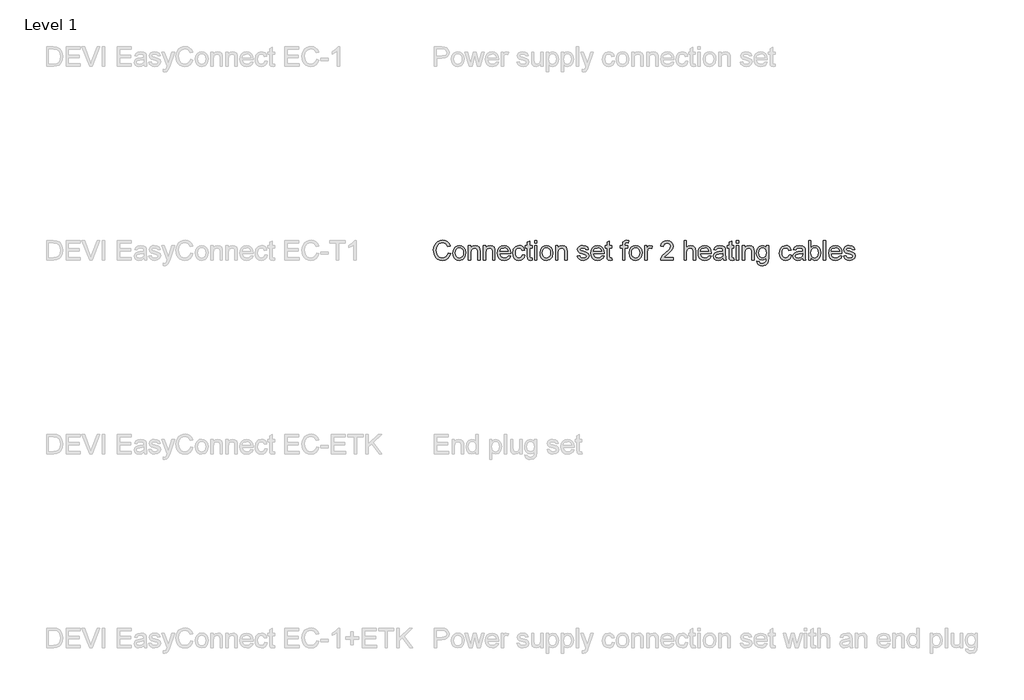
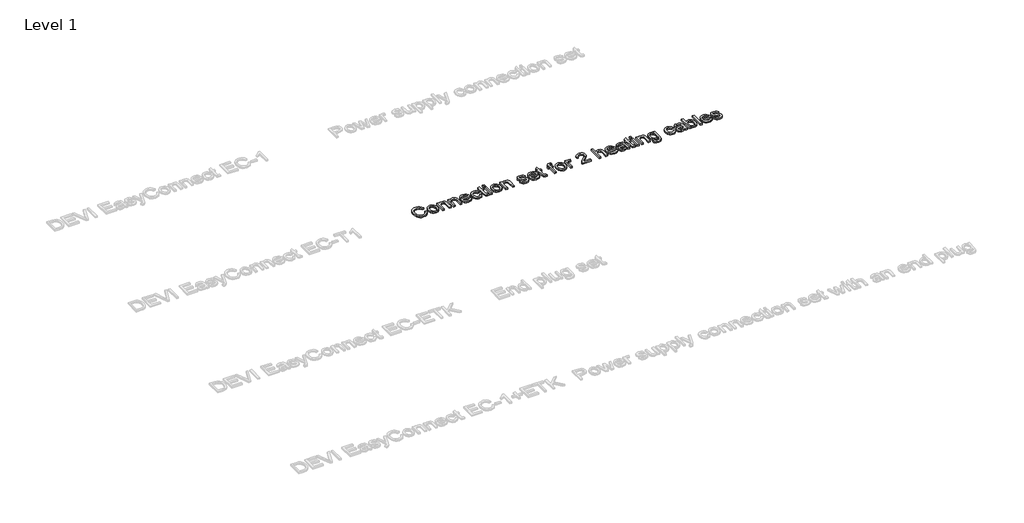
# One storey, part 10 of 11: 1 proxy.
"""IFC4 building model written with IfcOpenShell, lengths in millimetres."""

import ifcopenshell
import ifcopenshell.guid

model = None  # the IFC model being written
_history = None  # IfcOwnerHistory: only IFC2X3 demands one
_inside = {}  # id of a spatial element -> (the spatial element, [elements in it])
_under = {}  # id of a project, library or spatial element -> (it, [spatial elements below it])
_declared = {}  # id of a project -> (the project, [libraries it declares])
_typed = {}  # id of a type object -> (the type object, [elements of that type])
_made_of = {}  # id of a material, layer set ... -> (it, [elements and type objects made of it])


def new_model(schema):
    """Start an empty IFC model of exactly this schema.

    Asked for "IFC4X3", IfcOpenShell would pick the latest addendum, in which some entities
    have other attributes; the version numbers below select the first issue.
    IFC2X3 requires an IfcOwnerHistory on every rooted entity: one is made here for all.
    """
    global model, _history
    if schema == "IFC4X3":
        model = ifcopenshell.file(schema_version=(4, 3, 0, 0))
    else:
        model = ifcopenshell.file(schema=schema)
    _inside.clear()
    _under.clear()
    _declared.clear()
    _typed.clear()
    _made_of.clear()
    _history = None
    if model.schema == "IFC2X3":
        org = make("IfcOrganization", Name="unknown")
        user = make(
            "IfcPersonAndOrganization",
            ThePerson=make("IfcPerson", FamilyName="unknown"),
            TheOrganization=org,
        )
        app = make(
            "IfcApplication",
            ApplicationDeveloper=org,
            Version="unknown",
            ApplicationFullName="unknown",
            ApplicationIdentifier="unknown",
        )
        _history = make(
            "IfcOwnerHistory",
            OwningUser=user,
            OwningApplication=app,
            ChangeAction="ADDED",
            CreationDate=0,
        )
    return model


def make(cls, **values):
    """One entity of the class cls with the attributes given. An attribute that is None is left unset."""
    return model.create_entity(
        cls, **{name: value for name, value in values.items() if value is not None}
    )


def rooted(cls, **values):
    """An entity with a GlobalId (a new one), such as an element, a storey or a relation."""
    return make(cls, GlobalId=ifcopenshell.guid.new(), OwnerHistory=_history, **values)


def si_unit(unit_type, name, prefix=None):
    """IfcSIUnit, for example si_unit("LENGTHUNIT", "METRE", prefix="MILLI")."""
    return make("IfcSIUnit", UnitType=unit_type, Prefix=prefix, Name=name)


def assignment(units):
    """IfcUnitAssignment: the units of a project."""
    return None if units is None else make("IfcUnitAssignment", Units=units)


def point(xyz):
    """IfcCartesianPoint."""
    return None if xyz is None else make("IfcCartesianPoint", Coordinates=xyz)


def direction(xyz):
    """IfcDirection."""
    return None if xyz is None else make("IfcDirection", DirectionRatios=xyz)


def frame(location, z_axis=None, x_axis=None):
    """IfcAxis2Placement3D, a coordinate frame: its origin and axes. An axis left out is left unset."""
    return make(
        "IfcAxis2Placement3D",
        Location=point(location),
        Axis=direction(z_axis),
        RefDirection=direction(x_axis),
    )


def origin():
    """The frame at (0, 0, 0) with its axes left unset."""
    return frame((0.0, 0.0, 0.0))


def origin_with_axes():
    """The frame at (0, 0, 0) with the z axis (0, 0, 1) and the x axis (1, 0, 0) written out."""
    return frame((0.0, 0.0, 0.0), z_axis=(0.0, 0.0, 1.0), x_axis=(1.0, 0.0, 0.0))


def place(relative_to, where):
    """IfcLocalPlacement: puts the frame where relative to a parent placement (None: the world)."""
    return make(
        "IfcLocalPlacement", PlacementRelTo=relative_to, RelativePlacement=where
    )


def context(
    kind, dimensions, precision=None, world=None, true_north=None, identifier=None
):
    """IfcGeometricRepresentationContext, for example the 3D "Model" context."""
    return make(
        "IfcGeometricRepresentationContext",
        ContextIdentifier=identifier,
        ContextType=kind,
        CoordinateSpaceDimension=dimensions,
        Precision=precision,
        WorldCoordinateSystem=world,
        TrueNorth=true_north,
    )


def project(units=None, contexts=None):
    """IfcProject with its units and contexts."""
    return rooted(
        "IfcProject",
        Name="project",
        RepresentationContexts=contexts,
        UnitsInContext=assignment(units),
    )


def spatial(cls, under=None, at=None, **own):
    """A site, building, storey or space (cls), placed at a placement, below another one or the project."""
    s = rooted(cls, ObjectPlacement=at, **own)
    if under is not None:
        _under.setdefault(under.id(), (under, []))[1].append(s)
    return s


def polyline(points):
    """IfcPolyline through the points."""
    return make("IfcPolyline", Points=[point(p) for p in points])


def outline(outer, holes=None, kind="AREA"):
    """IfcArbitraryClosedProfileDef: a profile drawn as a closed curve; with holes, ...WithVoids."""
    if holes is None:
        return make("IfcArbitraryClosedProfileDef", ProfileType=kind, OuterCurve=outer)
    return make(
        "IfcArbitraryProfileDefWithVoids",
        ProfileType=kind,
        OuterCurve=outer,
        InnerCurves=holes,
    )


def extrude(swept, where, along, depth):
    """IfcExtrudedAreaSolid: the profile swept, set in the frame where, extruded along a direction by depth."""
    return make(
        "IfcExtrudedAreaSolid",
        SweptArea=swept,
        Position=where,
        ExtrudedDirection=direction(along),
        Depth=depth,
    )


def shape(context_of_items, identifier, shape_type, items):
    """IfcShapeRepresentation: the items that make up one representation, for example the "Body"."""
    return make(
        "IfcShapeRepresentation",
        ContextOfItems=context_of_items,
        RepresentationIdentifier=identifier,
        RepresentationType=shape_type,
        Items=items,
    )


def made_of(thing, what):
    """Note that an element or type object is made of a material, layer set ...; save() writes the relation."""
    if what is not None:
        _made_of.setdefault(what.id(), (what, []))[1].append(thing)
    return thing


def element(
    cls,
    number,
    at=None,
    inside=None,
    cuts=None,
    type_object=None,
    material=None,
    context=None,
    identifier="Body",
    shape_type=None,
    held_by="IfcProductDefinitionShape",
    body=None,
    shapes=None,
    **own,
):
    """One element of the class cls, such as IfcWall. Its Tag is "e" and its number.

    at: its placement. inside: the storey or other place that contains it. cuts: it is an
    opening in that element (IfcRelVoidsElement). A single representation is given by context,
    identifier, shape_type and body (its items); several are given by shapes. held_by: the class
    of the entity that holds the representations. save() writes the other relations.
    """
    e = rooted(cls, Tag="e%d" % number, ObjectPlacement=at, **own)
    if body is not None:
        shapes = [shape(context, identifier, shape_type, body)]
    if shapes is not None:
        e.Representation = make(held_by, Representations=shapes)
    if inside is not None:
        _inside.setdefault(inside.id(), (inside, []))[1].append(e)
    if cuts is not None:
        rooted(
            "IfcRelVoidsElement", RelatingBuildingElement=cuts, RelatedOpeningElement=e
        )
    if type_object is not None:
        _typed.setdefault(type_object.id(), (type_object, []))[1].append(e)
    return made_of(e, material)


def aggregate(whole, parts):
    """IfcRelAggregates: a whole, such as a stair, and the parts it consists of."""
    return rooted("IfcRelAggregates", RelatingObject=whole, RelatedObjects=parts)


def save(model, path):
    """Write the relations noted so far, then the file.

    IfcRelAggregates (storeys below a building ...), IfcRelContainedInSpatialStructure (elements
    in a storey), IfcRelDefinesByType, IfcRelAssociatesMaterial and IfcRelDeclares: one each for
    every whole, place, type object, material and project.
    """
    for whole, parts in _under.values():
        aggregate(whole, parts)
    for where, things in _inside.values():
        rooted(
            "IfcRelContainedInSpatialStructure",
            RelatedElements=things,
            RelatingStructure=where,
        )
    for kind, things in _typed.values():
        rooted("IfcRelDefinesByType", RelatedObjects=things, RelatingType=kind)
    for what, things in _made_of.values():
        rooted("IfcRelAssociatesMaterial", RelatedObjects=things, RelatingMaterial=what)
    for by, libraries in _declared.values():
        rooted("IfcRelDeclares", RelatingContext=by, RelatedDefinitions=libraries)
    model.write(path)


model = new_model("IFC4")

# Units and contexts
model_context = context("Model", 3, world=origin())
ifc_project = project(units=[si_unit("LENGTHUNIT", "METRE", prefix="MILLI")], contexts=[model_context])

# Site, building, storey
site = spatial("IfcSite", under=ifc_project)
building = spatial("IfcBuilding", under=site)
storey = spatial("IfcBuildingStorey", under=building, Name="Level 1", Elevation=0.0)

# Proxy
placement = place(None, origin())
element("IfcBuildingElementProxy", 1, Name="100mm Arial", ObjectType="100mm Arial", at=placement, inside=storey, context=model_context, shape_type="SweptSolid", body=[
    extrude(outline(polyline([(4615.5878184, 5552.4432286), (4628.1448572, 5549.2058671), (4622.3507158, 5534.5733607), (4613.2578991, 5523.883323), (4601.313997, 5517.3442206), (4586.9665992, 5515.1645198), (4572.4015379, 5516.8138574), (4560.8347148, 5521.7618702), (4551.9687587, 5529.83688), (4545.5062983, 5540.8672085), (4540.2455858, 5567.7225941), (4541.7324422, 5582.3704289), (4546.1930114, 5595.0194382), (4553.3943015, 5605.2680174), (4563.1033205, 5612.7145622), (4574.6180269, 5617.2487077), (4587.2363793, 5618.7600896), (4601.004363, 5616.8041837), (4612.3872451, 5610.9364658), (4621.0294063, 5601.5186868), (4626.5752274, 5588.9125971), (4614.0181886, 5585.9204902), (4603.7174927, 5601.3592712), (4586.74587, 5606.2030508), (4567.1009715, 5600.8319737), (4556.0031979, 5586.4109995), (4552.8026246, 5567.7471196), (4556.5918091, 5546.1156583), (4568.3885584, 5532.295558), (4585.7158004, 5527.7215585), (4596.1973716, 5529.2789256), (4604.9315033, 5533.951027), (4611.5257881, 5541.6888116), (4615.5878184, 5552.4432286)])), origin_with_axes(), (0.0, 0.0, 1.0), 10.0),
    extrude(outline(polyline([(4640.701896, 5553.620451), (4643.4180914, 5571.4075455), (4651.5666776, 5583.9094019), (4661.6343815, 5590.0346371), (4673.6886482, 5592.0763822), (4686.8802834, 5589.5901131), (4697.4170369, 5582.1313056), (4704.3240214, 5570.2885711), (4706.6263495, 5554.6505206), (4702.5551221, 5532.3078207), (4690.6970591, 5519.6649428), (4673.6886482, 5515.1645198), (4660.3375975, 5517.6415919), (4649.8131067, 5525.0728082), (4642.9796987, 5537.1638631), (4640.701896, 5553.620451)]), holes=[polyline([(4653.2589347, 5553.6449765), (4654.7120686, 5542.2804885), (4659.0714703, 5534.1840189), (4665.6320325, 5529.3371736), (4673.6886482, 5527.7215585), (4681.7084757, 5529.3463707), (4688.2567752, 5534.2208071), (4692.6161769, 5542.4245756), (4694.0693107, 5554.0373839), (4692.6069798, 5565.0707781), (4688.219987, 5573.0568831), (4681.6624904, 5577.9037284), (4673.6886482, 5579.5193435), (4665.6320325, 5577.9098597), (4659.0714703, 5573.0814085), (4654.7120686, 5565.0033331), (4653.2589347, 5553.6449765)])]), origin_with_axes(), (0.0, 0.0, 1.0), 10.0),
    extrude(outline(polyline([(4720.7530181, 5516.7341496), (4720.7530181, 5590.5067524), (4733.3100569, 5590.5067524), (4733.3100569, 5580.2060565), (4742.911777, 5589.1088008), (4756.0206387, 5592.0763822), (4767.8787017, 5589.6851493), (4775.9721056, 5583.4066299), (4779.7367647, 5574.1727918), (4780.3989523, 5562.0326859), (4780.3989523, 5516.7341496), (4767.8419135, 5516.7341496), (4767.8419135, 5560.3404288), (4766.394911, 5571.450465), (4761.2813513, 5577.3243142), (4752.6606498, 5579.5193435), (4739.0367533, 5574.5897247), (4734.741731, 5567.4466826), (4733.3100569, 5555.8767939), (4733.3100569, 5516.7341496), (4720.7530181, 5516.7341496)])), origin_with_axes(), (0.0, 0.0, 1.0), 10.0),
    extrude(outline(polyline([(4797.6648806, 5516.7341496), (4797.6648806, 5590.5067524), (4810.2219193, 5590.5067524), (4810.2219193, 5580.2060565), (4819.8236394, 5589.1088008), (4832.9325012, 5592.0763822), (4844.7905642, 5589.6851493), (4852.8839681, 5583.4066299), (4856.6486271, 5574.1727918), (4857.3108147, 5562.0326859), (4857.3108147, 5516.7341496), (4844.753776, 5516.7341496), (4844.753776, 5560.3404288), (4843.3067734, 5571.450465), (4838.1932137, 5577.3243142), (4829.5725123, 5579.5193435), (4815.9486157, 5574.5897247), (4811.6535934, 5567.4466826), (4810.2219193, 5555.8767939), (4810.2219193, 5516.7341496), (4797.6648806, 5516.7341496)])), origin_with_axes(), (0.0, 0.0, 1.0), 10.0),
    extrude(outline(polyline([(4926.2273752, 5538.7089675), (4938.5391593, 5537.1393376), (4934.1031155, 5527.86258), (4927.0244528, 5520.9280044), (4917.4625866, 5516.6053909), (4905.5769325, 5515.1645198), (4890.8432586, 5517.6507889), (4879.5063618, 5525.1095964), (4872.2774806, 5537.0565642), (4869.8678535, 5553.0073143), (4872.302006, 5569.4945591), (4879.6044636, 5581.8247373), (4890.7880763, 5589.513471), (4904.865694, 5592.0763822), (4918.5049189, 5589.5196024), (4929.403423, 5581.8492628), (4936.5495308, 5569.54361), (4938.9315667, 5553.0808907), (4938.8579903, 5549.6963764), (4882.4248923, 5549.6963764), (4884.5984617, 5540.2969914), (4889.6476421, 5533.3869413), (4896.9347713, 5529.1379042), (4905.8221872, 5527.7215585), (4918.1339713, 5530.3457834), (4926.2273752, 5538.7089675)]), holes=[polyline([(4882.4248923, 5562.2534151), (4926.374528, 5562.2534151), (4921.3468074, 5573.6332315), (4914.0259557, 5578.0478155), (4904.816643, 5579.5193435), (4889.3533365, 5574.8227166), (4884.4880971, 5569.3320779), (4882.4248923, 5562.2534151)])]), origin_with_axes(), (0.0, 0.0, 1.0), 10.0),
    extrude(outline(polyline([(4998.5775009, 5543.417857), (5011.1345396, 5541.8482271), (5007.6335293, 5530.6799429), (5001.054573, 5522.2401168), (4992.0169386, 5516.933419), (4981.1398943, 5515.1645198), (4967.7827122, 5517.6323948), (4957.3379292, 5525.03602), (4950.5964917, 5537.0504328), (4948.3493458, 5553.3506709), (4952.1875813, 5574.20958), (4963.8862287, 5587.6127473), (4980.968216, 5592.0763822), (4991.5785459, 5590.5435406), (5000.0612916, 5585.9450156), (5006.1466729, 5578.5260621), (5009.5649098, 5568.5319345), (4997.007871, 5566.9623047), (4991.1830728, 5576.367821), (4981.0663179, 5579.5193435), (4972.9514542, 5577.9681077), (4966.5104536, 5573.3144005), (4962.3074018, 5565.3068357), (4960.9063846, 5553.6940274), (4962.276745, 5541.9248692), (4966.3878263, 5533.8897133), (4972.7123309, 5529.2635972), (4980.7229614, 5527.7215585), (4992.5564989, 5531.5720567), (4998.5775009, 5543.417857)])), origin_with_axes(), (0.0, 0.0, 1.0), 10.0),
    extrude(outline(polyline([(5048.805656, 5527.2065237), (5050.3752858, 5516.3662676), (5040.9820322, 5515.1645198), (5030.4606071, 5517.2491844), (5025.2121573, 5522.7183634), (5023.6915784, 5536.9676593), (5023.6915784, 5577.9497136), (5014.2737993, 5577.9497136), (5014.2737993, 5590.5067524), (5023.6915784, 5590.5067524), (5023.6915784, 5608.4348683), (5036.2486172, 5615.8170336), (5036.2486172, 5590.5067524), (5048.805656, 5590.5067524), (5048.805656, 5577.9497136), (5036.2486172, 5577.9497136), (5036.2486172, 5537.3355413), (5036.9108048, 5530.8608182), (5039.0567831, 5528.5676871), (5043.336477, 5527.7215585), (5048.805656, 5527.2065237)])), origin_with_axes(), (0.0, 0.0, 1.0), 10.0),
    extrude(outline(polyline([(5061.3626947, 5604.633421), (5061.3626947, 5617.1904598), (5073.9197335, 5617.1904598), (5073.9197335, 5604.633421), (5061.3626947, 5604.633421)])), origin_with_axes(), (0.0, 0.0, 1.0), 10.0),
    extrude(outline(polyline([(5061.3626947, 5516.7341496), (5061.3626947, 5590.5067524), (5073.9197335, 5590.5067524), (5073.9197335, 5516.7341496), (5061.3626947, 5516.7341496)])), origin_with_axes(), (0.0, 0.0, 1.0), 10.0),
    extrude(outline(polyline([(5089.6160319, 5553.620451), (5092.3322273, 5571.4075455), (5100.4808135, 5583.9094019), (5110.5485175, 5590.0346371), (5122.6027842, 5592.0763822), (5135.7944194, 5589.5901131), (5146.3311729, 5582.1313056), (5153.2381573, 5570.2885711), (5155.5404855, 5554.6505206), (5151.4692581, 5532.3078207), (5139.6111951, 5519.6649428), (5122.6027842, 5515.1645198), (5109.2517334, 5517.6415919), (5098.7272427, 5525.0728082), (5091.8938346, 5537.1638631), (5089.6160319, 5553.620451)]), holes=[polyline([(5102.1730707, 5553.6449765), (5103.6262046, 5542.2804885), (5107.9856062, 5534.1840189), (5114.5461685, 5529.3371736), (5122.6027842, 5527.7215585), (5130.6226117, 5529.3463707), (5137.1709112, 5534.2208071), (5141.5303128, 5542.4245756), (5142.9834467, 5554.0373839), (5141.5211158, 5565.0707781), (5137.134123, 5573.0568831), (5130.5766264, 5577.9037284), (5122.6027842, 5579.5193435), (5114.5461685, 5577.9098597), (5107.9856062, 5573.0814085), (5103.6262046, 5565.0033331), (5102.1730707, 5553.6449765)])]), origin_with_axes(), (0.0, 0.0, 1.0), 10.0),
    extrude(outline(polyline([(5169.6671541, 5516.7341496), (5169.6671541, 5590.5067524), (5182.2241929, 5590.5067524), (5182.2241929, 5580.2060565), (5191.8259129, 5589.1088008), (5204.9347747, 5592.0763822), (5216.7928377, 5589.6851493), (5224.8862416, 5583.4066299), (5228.6509007, 5574.1727918), (5229.3130883, 5562.0326859), (5229.3130883, 5516.7341496), (5216.7560495, 5516.7341496), (5216.7560495, 5560.3404288), (5215.309047, 5571.450465), (5210.1954872, 5577.3243142), (5201.5747858, 5579.5193435), (5187.9508893, 5574.5897247), (5183.655867, 5567.4466826), (5182.2241929, 5555.8767939), (5182.2241929, 5516.7341496), (5169.6671541, 5516.7341496)])), origin_with_axes(), (0.0, 0.0, 1.0), 10.0),
    extrude(outline(polyline([(5281.1108732, 5538.7089675), (5293.6679119, 5540.2785973), (5299.4804475, 5530.9589201), (5312.7977757, 5527.7215585), (5325.6000691, 5530.68914), (5329.7693984, 5537.6543724), (5325.5755437, 5543.2952297), (5312.6506229, 5546.8759477), (5293.7414883, 5553.0195771), (5285.4886689, 5560.193276), (5282.680503, 5570.3222936), (5284.9368459, 5579.678759), (5291.092738, 5586.8279324), (5299.0757773, 5590.5435406), (5309.8792452, 5592.0763822), (5325.1586107, 5589.6115729), (5334.8706954, 5582.940646), (5339.1871775, 5571.6711942), (5326.6301387, 5570.1015644), (5321.9089864, 5577.0300086), (5310.8602638, 5579.5193435), (5298.8427853, 5577.1403732), (5295.2375418, 5571.5976178), (5296.7335952, 5567.9433233), (5301.4179593, 5565.1719456), (5312.23369, 5562.4986698), (5330.6645779, 5556.5880324), (5339.2239657, 5549.8925801), (5342.3264372, 5538.9787476), (5338.6844054, 5526.9612691), (5328.1752431, 5518.2424658), (5312.6260974, 5515.1645198), (5299.9648254, 5516.6483105), (5290.724856, 5521.0996826), (5284.5567012, 5528.4695853), (5281.1108732, 5538.7089675)])), origin_with_axes(), (0.0, 0.0, 1.0), 10.0),
    extrude(outline(polyline([(5408.1037379, 5538.7089675), (5420.415522, 5537.1393376), (5415.9794783, 5527.86258), (5408.9008156, 5520.9280044), (5399.3389494, 5516.6053909), (5387.4532952, 5515.1645198), (5372.7196213, 5517.6507889), (5361.3827245, 5525.1095964), (5354.1538433, 5537.0565642), (5351.7442162, 5553.0073143), (5354.1783688, 5569.4945591), (5361.4808264, 5581.8247373), (5372.664439, 5589.513471), (5386.7420567, 5592.0763822), (5400.3812817, 5589.5196024), (5411.2797858, 5581.8492628), (5418.4258936, 5569.54361), (5420.8079295, 5553.0808907), (5420.7343531, 5549.6963764), (5364.301255, 5549.6963764), (5366.4748245, 5540.2969914), (5371.5240049, 5533.3869413), (5378.811134, 5529.1379042), (5387.6985499, 5527.7215585), (5400.010334, 5530.3457834), (5408.1037379, 5538.7089675)]), holes=[polyline([(5364.301255, 5562.2534151), (5408.2508907, 5562.2534151), (5403.2231701, 5573.6332315), (5395.9023184, 5578.0478155), (5386.6930058, 5579.5193435), (5371.2296993, 5574.8227166), (5366.3644599, 5569.3320779), (5364.301255, 5562.2534151)])]), origin_with_axes(), (0.0, 0.0, 1.0), 10.0),
    extrude(outline(polyline([(5460.0486756, 5527.2065237), (5461.6183055, 5516.3662676), (5452.2250519, 5515.1645198), (5441.7036268, 5517.2491844), (5436.455177, 5522.7183634), (5434.9345981, 5536.9676593), (5434.9345981, 5577.9497136), (5425.516819, 5577.9497136), (5425.516819, 5590.5067524), (5434.9345981, 5590.5067524), (5434.9345981, 5608.4348683), (5447.4916369, 5615.8170336), (5447.4916369, 5590.5067524), (5460.0486756, 5590.5067524), (5460.0486756, 5577.9497136), (5447.4916369, 5577.9497136), (5447.4916369, 5537.3355413), (5448.1538244, 5530.8608182), (5450.2998028, 5528.5676871), (5454.5794966, 5527.7215585), (5460.0486756, 5527.2065237)])), origin_with_axes(), (0.0, 0.0, 1.0), 10.0),
    extrude(outline(polyline([(5514.9857202, 5516.7341496), (5514.9857202, 5577.9497136), (5503.9983113, 5577.9497136), (5503.9983113, 5590.5067524), (5514.9857202, 5590.5067524), (5514.9857202, 5597.9379687), (5516.3100954, 5608.4103428), (5522.7357676, 5615.89061), (5535.3909082, 5618.7600896), (5546.844301, 5617.3866635), (5545.004891, 5605.6144396), (5537.7698785, 5606.2030508), (5529.8604156, 5604.1183862), (5527.542759, 5596.3438134), (5527.542759, 5590.5067524), (5541.6694276, 5590.5067524), (5541.6694276, 5577.9497136), (5527.542759, 5577.9497136), (5527.542759, 5516.7341496), (5514.9857202, 5516.7341496)])), origin_with_axes(), (0.0, 0.0, 1.0), 10.0),
    extrude(outline(polyline([(5549.5175769, 5553.620451), (5552.2337722, 5571.4075455), (5560.3823584, 5583.9094019), (5570.4500624, 5590.0346371), (5582.5043291, 5592.0763822), (5595.6959643, 5589.5901131), (5606.2327178, 5582.1313056), (5613.1397022, 5570.2885711), (5615.4420304, 5554.6505206), (5611.370803, 5532.3078207), (5599.51274, 5519.6649428), (5582.5043291, 5515.1645198), (5569.1532783, 5517.6415919), (5558.6287876, 5525.0728082), (5551.7953795, 5537.1638631), (5549.5175769, 5553.620451)]), holes=[polyline([(5562.0746156, 5553.6449765), (5563.5277495, 5542.2804885), (5567.8871511, 5534.1840189), (5574.4477134, 5529.3371736), (5582.5043291, 5527.7215585), (5590.5241566, 5529.3463707), (5597.0724561, 5534.2208071), (5601.4318577, 5542.4245756), (5602.8849916, 5554.0373839), (5601.4226607, 5565.0707781), (5597.0356679, 5573.0568831), (5590.4781713, 5577.9037284), (5582.5043291, 5579.5193435), (5574.4477134, 5577.9098597), (5567.8871511, 5573.0814085), (5563.5277495, 5565.0033331), (5562.0746156, 5553.6449765)])]), origin_with_axes(), (0.0, 0.0, 1.0), 10.0),
    extrude(outline(polyline([(5629.568699, 5516.7341496), (5629.568699, 5590.5067524), (5640.5561079, 5590.5067524), (5640.5561079, 5579.5929199), (5648.3552062, 5589.6483611), (5656.2033555, 5592.0763822), (5668.8094452, 5588.2013585), (5664.6155904, 5576.9441695), (5655.7864225, 5579.5193435), (5648.6863, 5577.0422714), (5644.1613515, 5570.1751408), (5642.1257378, 5555.5089119), (5642.1257378, 5516.7341496), (5629.568699, 5516.7341496)])), origin_with_axes(), (0.0, 0.0, 1.0), 10.0),
    extrude(outline(polyline([(5777.1139045, 5529.2911884), (5777.1139045, 5516.7341496), (5711.189451, 5516.7341496), (5712.5383516, 5525.3916392), (5720.1657717, 5538.7212302), (5735.8865956, 5553.2770945), (5757.5671079, 5574.1973173), (5762.9872359, 5588.4220877), (5757.8736762, 5599.9367942), (5744.5195598, 5604.633421), (5730.6013576, 5600.0471588), (5725.3161196, 5587.3674927), (5712.7590808, 5588.9371225), (5715.8033044, 5601.0833597), (5722.3853264, 5609.9554472), (5732.1617904, 5615.3817066), (5744.7893399, 5617.1904598), (5757.5088599, 5615.1793715), (5767.2669298, 5609.1461068), (5773.4749385, 5600.1329979), (5775.5442747, 5589.1823772), (5773.3124573, 5577.2752633), (5765.8935037, 5564.9634792), (5747.9040741, 5547.7588645), (5733.4585744, 5535.6800724), (5727.7931917, 5529.2911884), (5777.1139045, 5529.2911884)])), origin_with_axes(), (0.0, 0.0, 1.0), 10.0),
    extrude(outline(polyline([(5832.0509491, 5516.7341496), (5832.0509491, 5617.1904598), (5844.6079879, 5617.1904598), (5844.6079879, 5580.2551074), (5854.3997804, 5589.1210635), (5866.4601784, 5592.0763822), (5880.5623216, 5588.8512834), (5889.1217093, 5579.9362764), (5891.6968833, 5563.4306375), (5891.6968833, 5516.7341496), (5879.1398445, 5516.7341496), (5879.1398445, 5562.1307878), (5875.1421935, 5575.3745396), (5863.8114281, 5579.5193435), (5853.5229949, 5576.7234403), (5846.6558644, 5569.1450712), (5844.6079879, 5555.9258448), (5844.6079879, 5516.7341496), (5832.0509491, 5516.7341496)])), origin_with_axes(), (0.0, 0.0, 1.0), 10.0),
    extrude(outline(polyline([(5960.6134437, 5538.7089675), (5972.9252278, 5537.1393376), (5968.4891841, 5527.86258), (5961.4105214, 5520.9280044), (5951.8486552, 5516.6053909), (5939.9630011, 5515.1645198), (5925.2293272, 5517.6507889), (5913.8924303, 5525.1095964), (5906.6635491, 5537.0565642), (5904.2539221, 5553.0073143), (5906.6880746, 5569.4945591), (5913.9905322, 5581.8247373), (5925.1741449, 5589.513471), (5939.2517625, 5592.0763822), (5952.8909875, 5589.5196024), (5963.7894916, 5581.8492628), (5970.9355994, 5569.54361), (5973.3176353, 5553.0808907), (5973.2440589, 5549.6963764), (5916.8109608, 5549.6963764), (5918.9845303, 5540.2969914), (5924.0337107, 5533.3869413), (5931.3208399, 5529.1379042), (5940.2082557, 5527.7215585), (5952.5200398, 5530.3457834), (5960.6134437, 5538.7089675)]), holes=[polyline([(5916.8109608, 5562.2534151), (5960.7605965, 5562.2534151), (5955.7328759, 5573.6332315), (5948.4120242, 5578.0478155), (5939.2027116, 5579.5193435), (5923.7394051, 5574.8227166), (5918.8741657, 5569.3320779), (5916.8109608, 5562.2534151)])]), origin_with_axes(), (0.0, 0.0, 1.0), 10.0),
    extrude(outline(polyline([(6032.9635694, 5526.1519287), (6020.7866754, 5517.6415919), (6007.3344571, 5515.1645198), (5996.8406232, 5516.6544418), (5989.0997729, 5521.1242081), (5984.326504, 5527.9116309), (5982.7354144, 5536.3545227), (5985.1389101, 5546.2873366), (5991.4542177, 5553.4978237), (6000.2465973, 5557.618102), (6011.1113789, 5559.5065629), (6032.889993, 5563.823045), (6032.9635694, 5566.6189482), (6029.5054787, 5575.8895744), (6015.6240647, 5579.5193435), (6002.9198732, 5577.103585), (5996.862083, 5568.5319345), (5984.3050442, 5570.1015644), (5989.737435, 5582.3642975), (6000.675793, 5589.5502592), (6017.2427455, 5592.0763822), (6032.4607974, 5589.8445648), (6041.0569733, 5584.2404957), (6044.9074716, 5575.7178962), (6045.5206082, 5564.7304872), (6045.5206082, 5549.1077652), (6046.1582703, 5527.2923629), (6048.6598679, 5516.7341496), (6036.1028291, 5516.7341496), (6032.9635694, 5526.1519287)]), holes=[polyline([(6032.9635694, 5551.2660062), (6012.7055342, 5547.415508), (6001.9020663, 5545.3798943), (5997.0092358, 5542.0689563), (5995.2924531, 5537.2374395), (5999.0325868, 5530.4438853), (6010.0077329, 5527.7215585), (6022.7119245, 5530.7259282), (6030.9034303, 5537.9977289), (6032.889993, 5547.7098136), (6032.9635694, 5551.2660062)])]), origin_with_axes(), (0.0, 0.0, 1.0), 10.0),
    extrude(outline(polyline([(6089.4702439, 5527.2065237), (6091.0398738, 5516.3662676), (6081.6466201, 5515.1645198), (6071.1251951, 5517.2491844), (6065.8767453, 5522.7183634), (6064.3561664, 5536.9676593), (6064.3561664, 5577.9497136), (6054.9383873, 5577.9497136), (6054.9383873, 5590.5067524), (6064.3561664, 5590.5067524), (6064.3561664, 5608.4348683), (6076.9132051, 5615.8170336), (6076.9132051, 5590.5067524), (6089.4702439, 5590.5067524), (6089.4702439, 5577.9497136), (6076.9132051, 5577.9497136), (6076.9132051, 5537.3355413), (6077.5753927, 5530.8608182), (6079.721371, 5528.5676871), (6084.0010649, 5527.7215585), (6089.4702439, 5527.2065237)])), origin_with_axes(), (0.0, 0.0, 1.0), 10.0),
    extrude(outline(polyline([(6102.0272827, 5604.633421), (6102.0272827, 5617.1904598), (6114.5843214, 5617.1904598), (6114.5843214, 5604.633421), (6102.0272827, 5604.633421)])), origin_with_axes(), (0.0, 0.0, 1.0), 10.0),
    extrude(outline(polyline([(6102.0272827, 5516.7341496), (6102.0272827, 5590.5067524), (6114.5843214, 5590.5067524), (6114.5843214, 5516.7341496), (6102.0272827, 5516.7341496)])), origin_with_axes(), (0.0, 0.0, 1.0), 10.0),
    extrude(outline(polyline([(6133.4198796, 5516.7341496), (6133.4198796, 5590.5067524), (6145.9769184, 5590.5067524), (6145.9769184, 5580.2060565), (6155.5786384, 5589.1088008), (6168.6875002, 5592.0763822), (6180.5455632, 5589.6851493), (6188.6389671, 5583.4066299), (6192.4036262, 5574.1727918), (6193.0658137, 5562.0326859), (6193.0658137, 5516.7341496), (6180.508775, 5516.7341496), (6180.508775, 5560.3404288), (6179.0617725, 5571.450465), (6173.9482127, 5577.3243142), (6165.3275113, 5579.5193435), (6151.7036148, 5574.5897247), (6147.4085925, 5567.4466826), (6145.9769184, 5555.8767939), (6145.9769184, 5516.7341496), (6133.4198796, 5516.7341496)])), origin_with_axes(), (0.0, 0.0, 1.0), 10.0),
    extrude(outline(polyline([(6207.1924824, 5510.4556302), (6219.7495211, 5508.8860004), (6223.8207485, 5502.2641245), (6236.0099053, 5499.4682213), (6248.8612497, 5502.6320065), (6254.9926163, 5511.5102253), (6255.8510076, 5526.1519287), (6247.009577, 5519.0885944), (6236.2306345, 5516.7341496), (6223.284254, 5519.4748705), (6213.6304173, 5527.6970331), (6207.6247437, 5539.7512998), (6205.6228525, 5553.988333), (6209.2158333, 5573.4492905), (6219.6146311, 5587.2203399), (6235.6174979, 5592.0763822), (6246.8195046, 5589.32953), (6255.8510076, 5581.0889733), (6255.8510076, 5590.5067524), (6268.4080464, 5590.5067524), (6268.4080464, 5526.8141163), (6264.9744811, 5502.42354), (6254.0974367, 5491.0805118), (6235.7646507, 5486.9111825), (6224.0813316, 5488.3796448), (6214.8812161, 5492.7850317), (6208.9797757, 5500.1396059), (6207.1924824, 5510.4556302)]), holes=[polyline([(6218.1798913, 5554.8467243), (6219.5195949, 5543.3289522), (6223.5387057, 5535.4102922), (6229.5811675, 5530.8209643), (6236.990924, 5529.2911884), (6244.3454982, 5530.8117673), (6250.4186168, 5535.373504), (6254.4929099, 5543.1909964), (6255.8510076, 5554.4788423), (6254.453056, 5565.3650837), (6250.2592013, 5573.2040359), (6244.0971778, 5577.9405166), (6236.7947202, 5579.5193435), (6229.624087, 5577.965042), (6223.6122821, 5573.3021377), (6219.537989, 5565.5796815), (6218.1798913, 5554.8467243)])]), origin_with_axes(), (0.0, 0.0, 1.0), 10.0),
    extrude(outline(polyline([(6373.573246, 5543.417857), (6386.1302848, 5541.8482271), (6382.6292745, 5530.6799429), (6376.0503181, 5522.2401168), (6367.0126838, 5516.933419), (6356.1356395, 5515.1645198), (6342.7784574, 5517.6323948), (6332.3336744, 5525.03602), (6325.5922368, 5537.0504328), (6323.345091, 5553.3506709), (6327.1833265, 5574.20958), (6338.8819739, 5587.6127473), (6355.9639612, 5592.0763822), (6366.5742911, 5590.5435406), (6375.0570368, 5585.9450156), (6381.1424181, 5578.5260621), (6384.560655, 5568.5319345), (6372.0036162, 5566.9623047), (6366.1788179, 5576.367821), (6356.0620631, 5579.5193435), (6347.9471994, 5577.9681077), (6341.5061988, 5573.3144005), (6337.303147, 5565.3068357), (6335.9021297, 5553.6940274), (6337.2724902, 5541.9248692), (6341.3835715, 5533.8897133), (6347.7080761, 5529.2635972), (6355.7187065, 5527.7215585), (6367.5522441, 5531.5720567), (6373.573246, 5543.417857)])), origin_with_axes(), (0.0, 0.0, 1.0), 10.0),
    extrude(outline(polyline([(6444.2065891, 5526.1519287), (6432.0296951, 5517.6415919), (6418.5774768, 5515.1645198), (6408.0836429, 5516.6544418), (6400.3427926, 5521.1242081), (6395.5695237, 5527.9116309), (6393.978434, 5536.3545227), (6396.3819297, 5546.2873366), (6402.6972373, 5553.4978237), (6411.489617, 5557.618102), (6422.3543986, 5559.5065629), (6444.1330127, 5563.823045), (6444.2065891, 5566.6189482), (6440.7484984, 5575.8895744), (6426.8670844, 5579.5193435), (6414.1628928, 5577.103585), (6408.1051027, 5568.5319345), (6395.5480639, 5570.1015644), (6400.9804547, 5582.3642975), (6411.9188127, 5589.5502592), (6428.4857652, 5592.0763822), (6443.7038171, 5589.8445648), (6452.299993, 5584.2404957), (6456.1504912, 5575.7178962), (6456.7636279, 5564.7304872), (6456.7636279, 5549.1077652), (6457.40129, 5527.2923629), (6459.9028876, 5516.7341496), (6447.3458488, 5516.7341496), (6444.2065891, 5526.1519287)]), holes=[polyline([(6444.2065891, 5551.2660062), (6423.9485539, 5547.415508), (6413.145086, 5545.3798943), (6408.2522555, 5542.0689563), (6406.5354728, 5537.2374395), (6410.2756064, 5530.4438853), (6421.2507526, 5527.7215585), (6433.9549442, 5530.7259282), (6442.1464499, 5537.9977289), (6444.1330127, 5547.7098136), (6444.2065891, 5551.2660062)])]), origin_with_axes(), (0.0, 0.0, 1.0), 10.0),
    extrude(outline(polyline([(6486.586595, 5516.7341496), (6474.0295562, 5516.7341496), (6474.0295562, 5617.1904598), (6486.586595, 5617.1904598), (6486.586595, 5579.9362764), (6495.3789747, 5589.0413558), (6506.3050699, 5592.0763822), (6518.8866341, 5589.3417927), (6528.6477697, 5581.653059), (6534.6442463, 5569.6968942), (6536.81475, 5554.724097), (6534.5676042, 5537.9609407), (6527.8261666, 5525.4897411), (6517.9332066, 5517.7458251), (6506.2314935, 5515.1645198), (6495.066275, 5518.4938518), (6486.586595, 5528.481848), (6486.586595, 5516.7341496)]), holes=[polyline([(6486.586595, 5554.1354858), (6490.0201603, 5536.5752519), (6496.5991166, 5529.9349819), (6505.152373, 5527.7215585), (6512.3996483, 5529.352502), (6518.5923285, 5534.2453326), (6522.8413656, 5542.3693933), (6524.2577113, 5553.6940274), (6522.8996136, 5565.1842084), (6518.8253205, 5573.2162986), (6512.8257783, 5577.9435822), (6505.6919332, 5579.5193435), (6498.4446579, 5577.8883999), (6492.2519777, 5572.9955694), (6488.0029406, 5565.0186615), (6486.586595, 5554.1354858)])]), origin_with_axes(), (0.0, 0.0, 1.0), 10.0),
    extrude(outline(polyline([(6550.9414187, 5516.7341496), (6550.9414187, 5617.1904598), (6563.4984574, 5617.1904598), (6563.4984574, 5516.7341496), (6550.9414187, 5516.7341496)])), origin_with_axes(), (0.0, 0.0, 1.0), 10.0),
    extrude(outline(polyline([(6633.9846477, 5538.7089675), (6646.2964318, 5537.1393376), (6641.8603881, 5527.86258), (6634.7817254, 5520.9280044), (6625.2198592, 5516.6053909), (6613.334205, 5515.1645198), (6598.6005311, 5517.6507889), (6587.2636343, 5525.1095964), (6580.0347531, 5537.0565642), (6577.625126, 5553.0073143), (6580.0592786, 5569.4945591), (6587.3617362, 5581.8247373), (6598.5453488, 5589.513471), (6612.6229665, 5592.0763822), (6626.2621915, 5589.5196024), (6637.1606956, 5581.8492628), (6644.3068033, 5569.54361), (6646.6888393, 5553.0808907), (6646.6152629, 5549.6963764), (6590.1821648, 5549.6963764), (6592.3557343, 5540.2969914), (6597.4049146, 5533.3869413), (6604.6920438, 5529.1379042), (6613.5794597, 5527.7215585), (6625.8912438, 5530.3457834), (6633.9846477, 5538.7089675)]), holes=[polyline([(6590.1821648, 5562.2534151), (6634.1318005, 5562.2534151), (6629.1040799, 5573.6332315), (6621.7832282, 5578.0478155), (6612.5739156, 5579.5193435), (6597.1106091, 5574.8227166), (6592.2453697, 5569.3320779), (6590.1821648, 5562.2534151)])]), origin_with_axes(), (0.0, 0.0, 1.0), 10.0),
    extrude(outline(polyline([(6654.5369885, 5538.7089675), (6667.0940273, 5540.2785973), (6672.9065628, 5530.9589201), (6686.223891, 5527.7215585), (6699.0261844, 5530.68914), (6703.1955137, 5537.6543724), (6699.001659, 5543.2952297), (6686.0767382, 5546.8759477), (6667.1676037, 5553.0195771), (6658.9147842, 5560.193276), (6656.1066183, 5570.3222936), (6658.3629612, 5579.678759), (6664.5188533, 5586.8279324), (6672.5018926, 5590.5435406), (6683.3053605, 5592.0763822), (6698.5847261, 5589.6115729), (6708.2968107, 5582.940646), (6712.6132928, 5571.6711942), (6700.056254, 5570.1015644), (6695.3351018, 5577.0300086), (6684.2863792, 5579.5193435), (6672.2689007, 5577.1403732), (6668.6636571, 5571.5976178), (6670.1597106, 5567.9433233), (6674.8440746, 5565.1719456), (6685.6598053, 5562.4986698), (6704.0906932, 5556.5880324), (6712.650081, 5549.8925801), (6715.7525525, 5538.9787476), (6712.1105207, 5526.9612691), (6701.6013584, 5518.2424658), (6686.0522128, 5515.1645198), (6673.3909408, 5516.6483105), (6664.1509713, 5521.0996826), (6657.9828165, 5528.4695853), (6654.5369885, 5538.7089675)])), origin_with_axes(), (0.0, 0.0, 1.0), 10.0),
])

save(model, "model.ifc")
